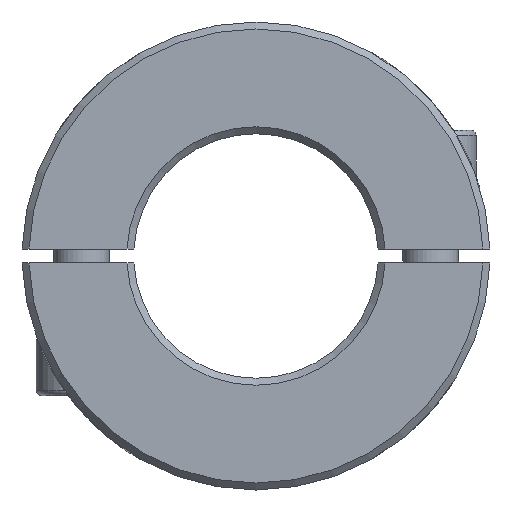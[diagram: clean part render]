
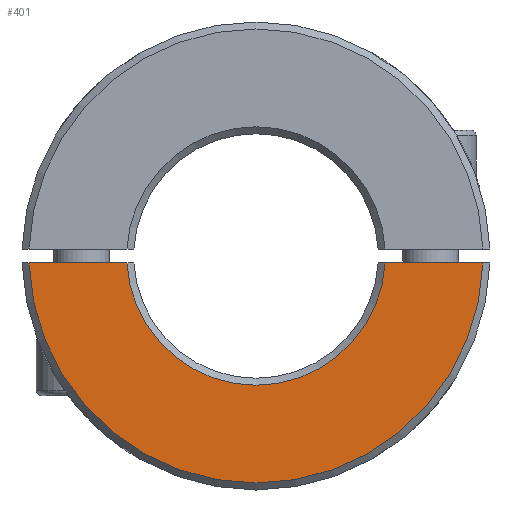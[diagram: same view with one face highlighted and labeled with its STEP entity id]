
A CAD part, front view. The second image highlights one B-rep face of the part: STEP entity #401.
In plain terms, the highlighted planar face has unit normal (0, -1, 0).
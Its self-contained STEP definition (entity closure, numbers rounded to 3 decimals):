
#401 = ADVANCED_FACE( '', ( #784 ), #785, .F. );
#784 = FACE_OUTER_BOUND( '', #1120, .T. );
#785 = PLANE( '', #1121 );
#1120 = EDGE_LOOP( '', ( #1783, #1784, #1785, #1786 ) );
#1121 = AXIS2_PLACEMENT_3D( '', #1787, #1788, #1789 );
#1783 = ORIENTED_EDGE( '', *, *, #1871, .F. );
#1784 = ORIENTED_EDGE( '', *, *, #1951, .T. );
#1785 = ORIENTED_EDGE( '', *, *, #1945, .F. );
#1786 = ORIENTED_EDGE( '', *, *, #2031, .T. );
#1787 = CARTESIAN_POINT( '', ( 0., -95., 0. ) );
#1788 = DIRECTION( '', ( 0., 1., 0. ) );
#1789 = DIRECTION( '', ( 0., 0., 1. ) );
#1871 = EDGE_CURVE( '', #2171, #2173, #2174, .T. );
#1945 = EDGE_CURVE( '', #2283, #2285, #2286, .T. );
#1951 = EDGE_CURVE( '', #2171, #2285, #2292, .T. );
#2031 = EDGE_CURVE( '', #2283, #2173, #2398, .F. );
#2171 = VERTEX_POINT( '', #2844 );
#2173 = VERTEX_POINT( '', #2849 );
#2174 = LINE( '', #2850, #2851 );
#2283 = VERTEX_POINT( '', #3370 );
#2285 = VERTEX_POINT( '', #3375 );
#2286 = LINE( '', #3376, #3377 );
#2292 = CIRCLE( '', #3393, 18.5 );
#2398 = CIRCLE( '', #4132, 32.5 );
#2844 = CARTESIAN_POINT( '', ( 18.473, -95., -1. ) );
#2849 = CARTESIAN_POINT( '', ( 32.485, -95., -1. ) );
#2850 = CARTESIAN_POINT( '', ( 0., -95., -1. ) );
#2851 = VECTOR( '', #4247, 1000. );
#3370 = CARTESIAN_POINT( '', ( -32.485, -95., -1. ) );
#3375 = CARTESIAN_POINT( '', ( -18.473, -95., -1. ) );
#3376 = CARTESIAN_POINT( '', ( 0., -95., -1. ) );
#3377 = VECTOR( '', #4342, 1000. );
#3393 = AXIS2_PLACEMENT_3D( '', #4346, #4347, #4348 );
#4132 = AXIS2_PLACEMENT_3D( '', #4411, #4412, #4413 );
#4247 = DIRECTION( '', ( 1., 0., 0. ) );
#4342 = DIRECTION( '', ( 1., 0., 0. ) );
#4346 = CARTESIAN_POINT( '', ( 0., -95., 0. ) );
#4347 = DIRECTION( '', ( 0., 1., 0. ) );
#4348 = DIRECTION( '', ( 0., 0., 1. ) );
#4411 = CARTESIAN_POINT( '', ( 0., -95., 0. ) );
#4412 = DIRECTION( '', ( 0., 1., 0. ) );
#4413 = DIRECTION( '', ( 0., 0., 1. ) );
